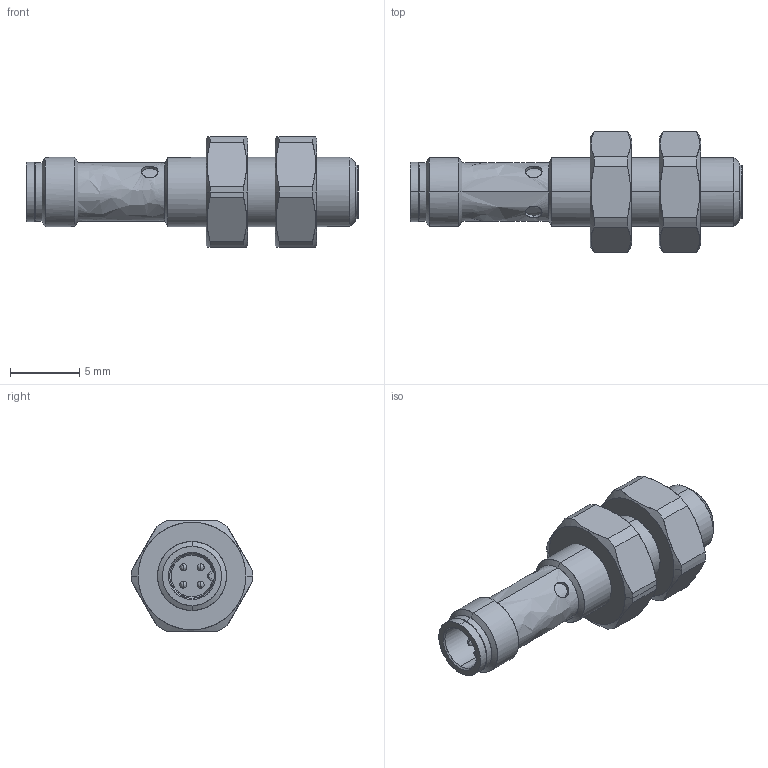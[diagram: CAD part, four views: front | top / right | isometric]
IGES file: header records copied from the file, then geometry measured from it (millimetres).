
Start section: Comment
Global section: file name: IFRM 05xxxA3_S05L.igs; native system:  By Spatial Corp.; preprocessor: XPlus GENERIC/IGES 3.0; author: Author; organization: Title; date: 20060328.145809; units: inch
Bounding box: 24.04 x 8.8 x 8 mm (x, y, z)
Surface area: 853.9 mm2 (no closed solid volume)
Topology: 0 solids, 0 shells, 116 faces, 540 edges, 540 vertices
Faces by surface type: bspline 116
